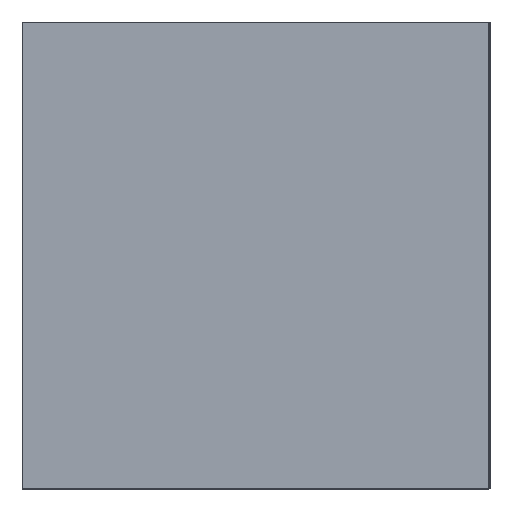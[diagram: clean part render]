
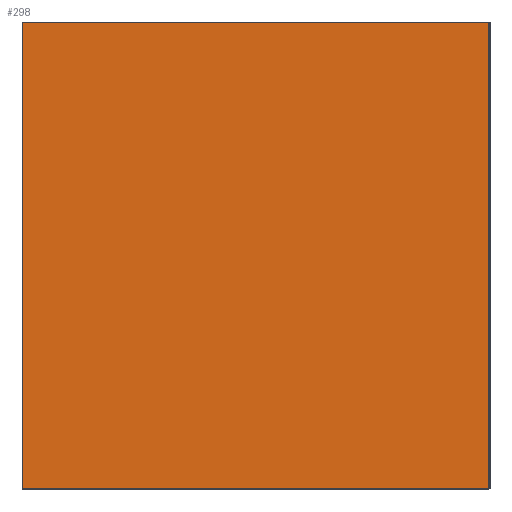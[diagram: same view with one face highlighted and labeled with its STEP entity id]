
A CAD part, front view. The second image highlights one B-rep face of the part: STEP entity #298.
In plain terms, the highlighted planar face has unit normal (0, -1, 0).
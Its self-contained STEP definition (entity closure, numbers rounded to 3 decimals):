
#40=FACE_OUTER_BOUND('',#58,.T.);
#58=EDGE_LOOP('',(#223,#224,#225,#226));
#73=LINE('',#501,#109);
#76=LINE('',#507,#112);
#79=LINE('',#513,#115);
#82=LINE('',#517,#118);
#109=VECTOR('',#414,10.);
#112=VECTOR('',#419,10.);
#115=VECTOR('',#424,10.);
#118=VECTOR('',#429,10.);
#145=VERTEX_POINT('',#498);
#146=VERTEX_POINT('',#500);
#148=VERTEX_POINT('',#506);
#150=VERTEX_POINT('',#512);
#169=EDGE_CURVE('',#146,#145,#73,.T.);
#172=EDGE_CURVE('',#148,#146,#76,.T.);
#175=EDGE_CURVE('',#150,#148,#79,.T.);
#178=EDGE_CURVE('',#145,#150,#82,.T.);
#223=ORIENTED_EDGE('',*,*,#178,.T.);
#224=ORIENTED_EDGE('',*,*,#175,.T.);
#225=ORIENTED_EDGE('',*,*,#172,.T.);
#226=ORIENTED_EDGE('',*,*,#169,.T.);
#280=PLANE('',#388);
#298=ADVANCED_FACE('',(#40),#280,.T.);
#388=AXIS2_PLACEMENT_3D('',#519,#432,#433);
#414=DIRECTION('',(0.,0.,1.));
#419=DIRECTION('',(1.,0.,0.));
#424=DIRECTION('',(0.,0.,-1.));
#429=DIRECTION('',(-1.,0.,0.));
#432=DIRECTION('center_axis',(0.,-1.,0.));
#433=DIRECTION('ref_axis',(0.,0.,-1.));
#498=CARTESIAN_POINT('',(1250.,-10.,1250.));
#500=CARTESIAN_POINT('',(1250.,-10.,-1250.));
#501=CARTESIAN_POINT('',(1250.,-10.,1250.));
#506=CARTESIAN_POINT('',(-1250.,-10.,-1250.));
#507=CARTESIAN_POINT('',(1250.,-10.,-1250.));
#512=CARTESIAN_POINT('',(-1250.,-10.,1250.));
#513=CARTESIAN_POINT('',(-1250.,-10.,-1250.));
#517=CARTESIAN_POINT('',(-1250.,-10.,1250.));
#519=CARTESIAN_POINT('Origin',(0.,-10.,0.));
